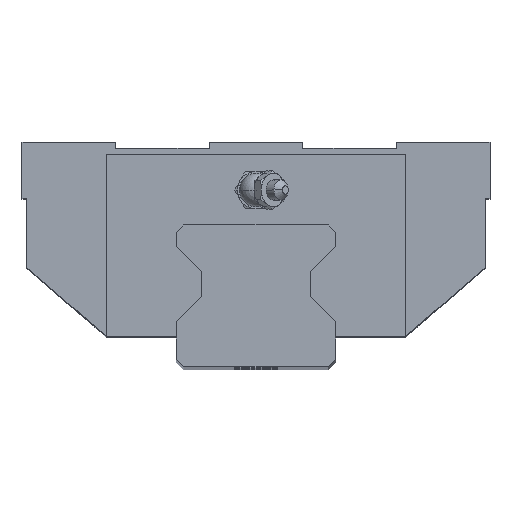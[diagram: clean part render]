
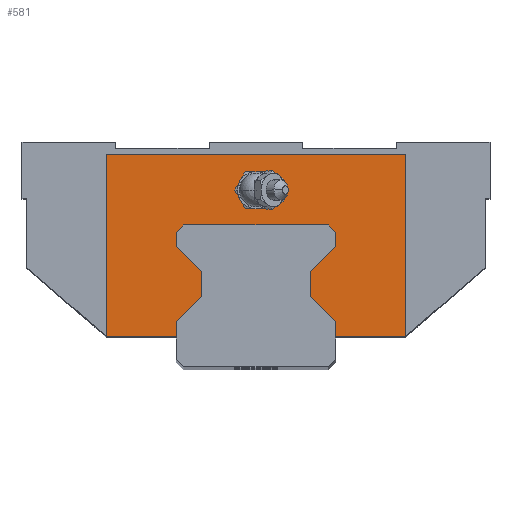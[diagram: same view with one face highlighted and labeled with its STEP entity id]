
A CAD part, top view. The second image highlights one B-rep face of the part: STEP entity #581.
In plain terms, the highlighted planar face has unit normal (0, 0, 1).
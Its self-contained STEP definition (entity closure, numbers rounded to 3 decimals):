
#581=ADVANCED_FACE('',(#1304,#1305),#1306,.T.);
#1304=FACE_BOUND('',#2208,.T.);
#1305=FACE_OUTER_BOUND('',#2209,.T.);
#1306=PLANE('',#2210);
#2208=EDGE_LOOP('',(#3815,#3816));
#2209=EDGE_LOOP('',(#3817,#3818,#3819,#3820,#3821,#3822,#3823,#3824,#3825,#3826,#3827,#3828,#3829,#3830,#3831,#3832,#3833,#3834));
#2210=AXIS2_PLACEMENT_3D('',#3835,#3836,#3837);
#3815=ORIENTED_EDGE('',*,*,#5798,.T.);
#3816=ORIENTED_EDGE('',*,*,#5799,.T.);
#3817=ORIENTED_EDGE('',*,*,#5800,.F.);
#3818=ORIENTED_EDGE('',*,*,#5801,.F.);
#3819=ORIENTED_EDGE('',*,*,#5802,.F.);
#3820=ORIENTED_EDGE('',*,*,#5803,.F.);
#3821=ORIENTED_EDGE('',*,*,#5804,.F.);
#3822=ORIENTED_EDGE('',*,*,#5805,.F.);
#3823=ORIENTED_EDGE('',*,*,#5806,.F.);
#3824=ORIENTED_EDGE('',*,*,#5315,.F.);
#3825=ORIENTED_EDGE('',*,*,#5807,.F.);
#3826=ORIENTED_EDGE('',*,*,#5808,.F.);
#3827=ORIENTED_EDGE('',*,*,#5374,.F.);
#3828=ORIENTED_EDGE('',*,*,#5464,.F.);
#3829=ORIENTED_EDGE('',*,*,#5809,.F.);
#3830=ORIENTED_EDGE('',*,*,#5810,.F.);
#3831=ORIENTED_EDGE('',*,*,#5589,.F.);
#3832=ORIENTED_EDGE('',*,*,#5504,.F.);
#3833=ORIENTED_EDGE('',*,*,#5472,.F.);
#3834=ORIENTED_EDGE('',*,*,#5795,.F.);
#3835=CARTESIAN_POINT('',(0.0,27.343,-24.25));
#3836=DIRECTION('',(0.,0.,1.0));
#3837=DIRECTION('',(1.0,0.0,0.));
#5315=EDGE_CURVE('',#6387,#6389,#6390,.T.);
#5374=EDGE_CURVE('',#6490,#6492,#6493,.T.);
#5464=EDGE_CURVE('',#6648,#6490,#6650,.T.);
#5472=EDGE_CURVE('',#6662,#6664,#6665,.T.);
#5504=EDGE_CURVE('',#6664,#6711,#6712,.T.);
#5589=EDGE_CURVE('',#6711,#6845,#6846,.T.);
#5795=EDGE_CURVE('',#7144,#6662,#7146,.T.);
#5798=EDGE_CURVE('',#7149,#7150,#7151,.T.);
#5799=EDGE_CURVE('',#7150,#7149,#7152,.T.);
#5800=EDGE_CURVE('',#7153,#7144,#7154,.T.);
#5801=EDGE_CURVE('',#7155,#7153,#7156,.T.);
#5802=EDGE_CURVE('',#7157,#7155,#7158,.T.);
#5803=EDGE_CURVE('',#7159,#7157,#7160,.T.);
#5804=EDGE_CURVE('',#7161,#7159,#7162,.T.);
#5805=EDGE_CURVE('',#7163,#7161,#7164,.T.);
#5806=EDGE_CURVE('',#6389,#7163,#7165,.T.);
#5807=EDGE_CURVE('',#7166,#6387,#7167,.T.);
#5808=EDGE_CURVE('',#6492,#7166,#7168,.T.);
#5809=EDGE_CURVE('',#7169,#6648,#7170,.T.);
#5810=EDGE_CURVE('',#6845,#7169,#7171,.T.);
#6387=VERTEX_POINT('',#7933);
#6389=VERTEX_POINT('',#7936);
#6390=LINE('',#7937,#7938);
#6490=VERTEX_POINT('',#8114);
#6492=VERTEX_POINT('',#8117);
#6493=LINE('',#8118,#8119);
#6648=VERTEX_POINT('',#8378);
#6650=LINE('',#8381,#8382);
#6662=VERTEX_POINT('',#8396);
#6664=VERTEX_POINT('',#8399);
#6665=LINE('',#8400,#8401);
#6711=VERTEX_POINT('',#8475);
#6712=LINE('',#8476,#8477);
#6845=VERTEX_POINT('',#8712);
#6846=LINE('',#8713,#8714);
#7144=VERTEX_POINT('',#9205);
#7146=LINE('',#9208,#9209);
#7149=VERTEX_POINT('',#9213);
#7150=VERTEX_POINT('',#9214);
#7151=CIRCLE('',#9215,3.6);
#7152=CIRCLE('',#9216,3.6);
#7153=VERTEX_POINT('',#9217);
#7154=LINE('',#9218,#9219);
#7155=VERTEX_POINT('',#9220);
#7156=LINE('',#9221,#9222);
#7157=VERTEX_POINT('',#9223);
#7158=LINE('',#9224,#9225);
#7159=VERTEX_POINT('',#9226);
#7160=LINE('',#9227,#9228);
#7161=VERTEX_POINT('',#9229);
#7162=LINE('',#9230,#9231);
#7163=VERTEX_POINT('',#9232);
#7164=LINE('',#9233,#9234);
#7165=LINE('',#9235,#9236);
#7166=VERTEX_POINT('',#9237);
#7167=LINE('',#9238,#9239);
#7168=LINE('',#9240,#9241);
#7169=VERTEX_POINT('',#9242);
#7170=LINE('',#9243,#9244);
#7171=LINE('',#9245,#9246);
#7933=CARTESIAN_POINT('',(17.0,6.5,-24.25));
#7936=CARTESIAN_POINT('',(17.0,9.52,-24.25));
#7937=CARTESIAN_POINT('',(17.0,6.5,-24.25));
#7938=VECTOR('',#10111,1000.0);
#8114=CARTESIAN_POINT('',(-32.0,45.4,-24.25));
#8117=CARTESIAN_POINT('',(32.0,45.4,-24.25));
#8118=CARTESIAN_POINT('',(-32.0,45.4,-24.25));
#8119=VECTOR('',#10187,1000.0);
#8378=CARTESIAN_POINT('',(-32.0,6.5,-24.25));
#8381=CARTESIAN_POINT('',(-32.0,6.5,-24.25));
#8382=VECTOR('',#10289,1000.0);
#8396=CARTESIAN_POINT('',(-17.0,25.67,-24.25));
#8399=CARTESIAN_POINT('',(-11.617,20.287,-24.25));
#8400=CARTESIAN_POINT('',(-17.0,25.67,-24.25));
#8401=VECTOR('',#10299,1000.0);
#8475=CARTESIAN_POINT('',(-11.617,14.903,-24.25));
#8476=CARTESIAN_POINT('',(-11.617,20.287,-24.25));
#8477=VECTOR('',#10340,1000.0);
#8712=CARTESIAN_POINT('',(-17.0,9.52,-24.25));
#8713=CARTESIAN_POINT('',(-11.617,14.903,-24.25));
#8714=VECTOR('',#10452,1000.0);
#9205=CARTESIAN_POINT('',(-17.0,28.69,-24.25));
#9208=CARTESIAN_POINT('',(-17.0,28.69,-24.25));
#9209=VECTOR('',#10727,1000.0);
#9213=CARTESIAN_POINT('',(3.6,37.7,-24.25));
#9214=CARTESIAN_POINT('',(-3.6,37.7,-24.25));
#9215=AXIS2_PLACEMENT_3D('',#10729,#10730,#10731);
#9216=AXIS2_PLACEMENT_3D('',#10732,#10733,#10734);
#9217=CARTESIAN_POINT('',(-15.49,30.2,-24.25));
#9218=CARTESIAN_POINT('',(-15.49,30.2,-24.25));
#9219=VECTOR('',#10735,1000.0);
#9220=CARTESIAN_POINT('',(15.49,30.2,-24.25));
#9221=CARTESIAN_POINT('',(15.49,30.2,-24.25));
#9222=VECTOR('',#10736,1000.0);
#9223=CARTESIAN_POINT('',(17.0,28.69,-24.25));
#9224=CARTESIAN_POINT('',(17.0,28.69,-24.25));
#9225=VECTOR('',#10737,1000.0);
#9226=CARTESIAN_POINT('',(17.0,25.67,-24.25));
#9227=CARTESIAN_POINT('',(17.0,25.67,-24.25));
#9228=VECTOR('',#10738,1000.0);
#9229=CARTESIAN_POINT('',(11.617,20.287,-24.25));
#9230=CARTESIAN_POINT('',(11.617,20.287,-24.25));
#9231=VECTOR('',#10739,1000.0);
#9232=CARTESIAN_POINT('',(11.617,14.903,-24.25));
#9233=CARTESIAN_POINT('',(11.617,14.903,-24.25));
#9234=VECTOR('',#10740,1000.0);
#9235=CARTESIAN_POINT('',(17.0,9.52,-24.25));
#9236=VECTOR('',#10741,1000.0);
#9237=CARTESIAN_POINT('',(32.0,6.5,-24.25));
#9238=CARTESIAN_POINT('',(32.0,6.5,-24.25));
#9239=VECTOR('',#10742,1000.0);
#9240=CARTESIAN_POINT('',(32.0,45.4,-24.25));
#9241=VECTOR('',#10743,1000.0);
#9242=CARTESIAN_POINT('',(-17.0,6.5,-24.25));
#9243=CARTESIAN_POINT('',(-32.0,6.5,-24.25));
#9244=VECTOR('',#10744,1000.0);
#9245=CARTESIAN_POINT('',(-17.0,9.52,-24.25));
#9246=VECTOR('',#10745,1000.0);
#10111=DIRECTION('',(0.0,1.0,0.0));
#10187=DIRECTION('',(1.0,0.0,0.0));
#10289=DIRECTION('',(0.0,1.0,0.0));
#10299=DIRECTION('',(0.707,-0.707,0.0));
#10340=DIRECTION('',(0.0,-1.0,0.0));
#10452=DIRECTION('',(-0.707,-0.707,0.0));
#10727=DIRECTION('',(0.0,-1.0,0.0));
#10729=CARTESIAN_POINT('',(0.0,37.7,-24.25));
#10730=DIRECTION('',(0.,0.,-1.0));
#10731=DIRECTION('',(1.0,0.,0.));
#10732=CARTESIAN_POINT('',(0.0,37.7,-24.25));
#10733=DIRECTION('',(0.,0.,-1.0));
#10734=DIRECTION('',(1.0,0.,0.));
#10735=DIRECTION('',(-0.707,-0.707,0.0));
#10736=DIRECTION('',(-1.0,0.0,0.0));
#10737=DIRECTION('',(-0.707,0.707,0.0));
#10738=DIRECTION('',(0.0,1.0,0.0));
#10739=DIRECTION('',(0.707,0.707,0.0));
#10740=DIRECTION('',(0.0,1.0,0.0));
#10741=DIRECTION('',(-0.707,0.707,0.0));
#10742=DIRECTION('',(-1.0,0.0,0.0));
#10743=DIRECTION('',(0.0,-1.0,0.0));
#10744=DIRECTION('',(-1.0,-0.0,-0.0));
#10745=DIRECTION('',(0.0,-1.0,0.0));
